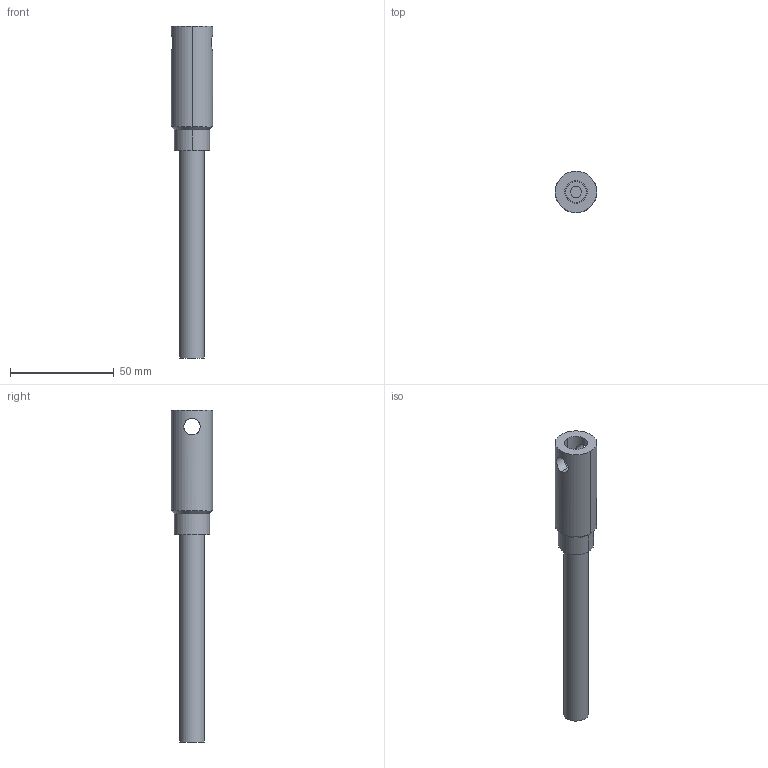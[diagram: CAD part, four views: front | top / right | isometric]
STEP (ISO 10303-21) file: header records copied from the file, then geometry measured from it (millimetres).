
FILE_DESCRIPTION (( 'STEP AP203' ), '1' );
FILE_NAME ('bj820-12100.STEP', '2021-10-25T00:33:35', ( '' ), ( '' ), 'SwSTEP 2.0', 'SolidWorks 2020', '' );
FILE_SCHEMA (( 'CONFIG_CONTROL_DESIGN' ));
Length unit declared in the file: millimetre
Products named in the file (1): bj820-12100
Bounding box: 20 x 20 x 160 mm (x, y, z)
Volume: 27322.9 mm3; surface area: 8945.6 mm2
Topology: 1 solids, 1 shells, 28 faces, 62 edges, 40 vertices
Faces by surface type: cylinder 13, plane 13, cone 2
Entity records: 1125 total; most frequent: CARTESIAN_POINT 415, DIRECTION 130, ORIENTED_EDGE 124, EDGE_CURVE 62, AXIS2_PLACEMENT_3D 47, VERTEX_POINT 40, VECTOR 36, LINE 36
